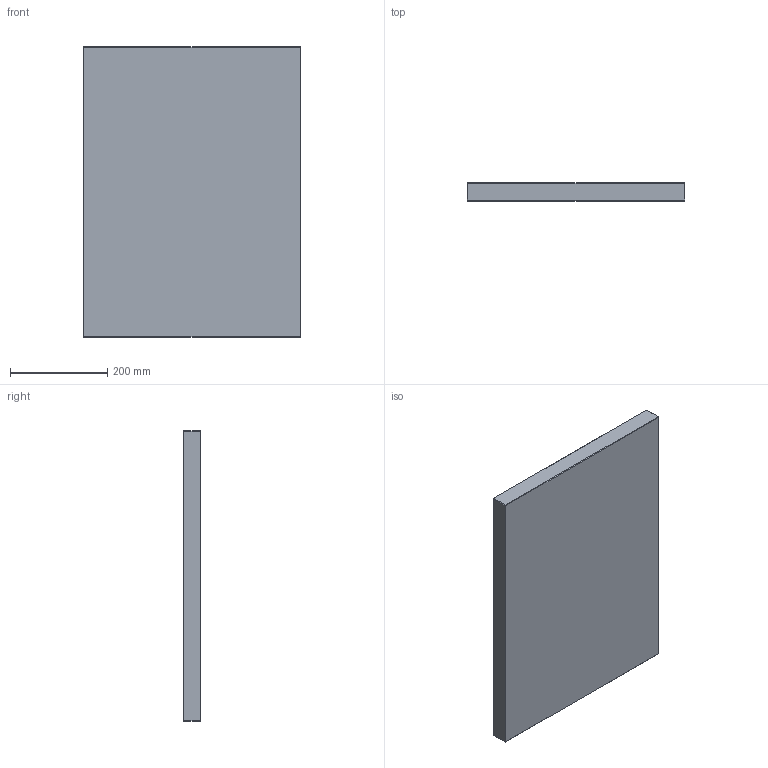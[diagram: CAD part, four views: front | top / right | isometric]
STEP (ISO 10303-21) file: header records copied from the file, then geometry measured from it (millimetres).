
FILE_DESCRIPTION (( 'STEP AP214' ), '1' );
FILE_NAME ('PBAV-P-446x446x36.STEP', '2020-03-25T16:45:57', ( 'August' ), ( '' ), 'SwSTEP 2.0', 'SolidWorks 2018', '' );
FILE_SCHEMA (( 'AUTOMOTIVE_DESIGN' ));
Length unit declared in the file: millimetre
Products named in the file (1): PBAV-P-446x446x36
Bounding box: 446 x 36 x 596 mm (x, y, z)
Volume: 9567225.3 mm3; surface area: 604127.1 mm2
Topology: 1 solids, 1 shells, 26 faces, 48 edges, 24 vertices
Faces by surface type: plane 26
Entity records: 634 total; most frequent: DIRECTION 102, CARTESIAN_POINT 99, ORIENTED_EDGE 96, EDGE_CURVE 48, VECTOR 48, LINE 48, AXIS2_PLACEMENT_3D 27, PLANE 26
